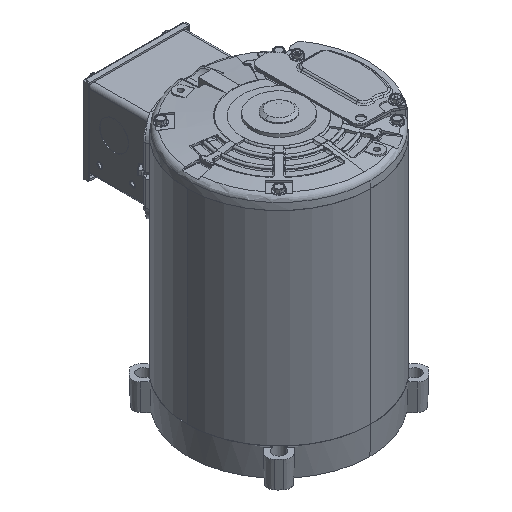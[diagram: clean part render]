
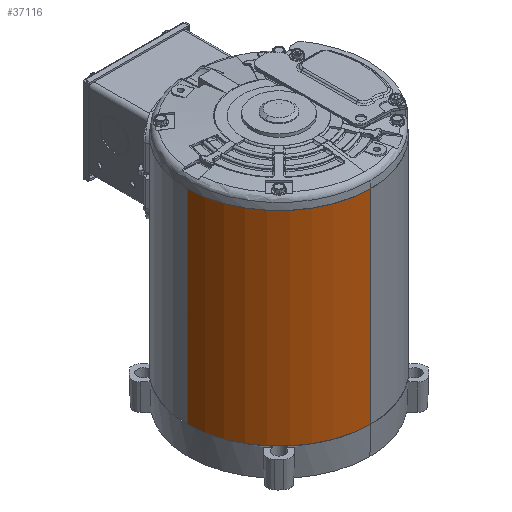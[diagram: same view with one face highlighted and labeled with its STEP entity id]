
A CAD part, isometric view. The second image highlights one B-rep face of the part: STEP entity #37116.
In plain terms, the highlighted cylindrical face has radius 71.369 mm (diameter 142.738 mm), a partial arc.
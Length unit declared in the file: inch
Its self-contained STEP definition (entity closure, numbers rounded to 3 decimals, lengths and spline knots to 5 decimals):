
#2294 = CARTESIAN_POINT ( 'NONE',  ( -2.8098, 0., -6.3125 ) ) ;
#4647 = CARTESIAN_POINT ( 'NONE',  ( 0., 0., -6.3125 ) ) ;
#6828 = VECTOR ( 'NONE', #32880, 39.37008 ) ;
#8421 = VERTEX_POINT ( 'NONE', #82035 ) ;
#8756 = VECTOR ( 'NONE', #19012, 39.37008 ) ;
#12274 = CYLINDRICAL_SURFACE ( 'NONE', #70327, 2.8098 ) ;
#13577 = CIRCLE ( 'NONE', #28721, 2.8098 ) ;
#15607 = EDGE_CURVE ( 'NONE', #103213, #76843, #49140, .T. ) ;
#19012 = DIRECTION ( 'NONE',  ( 0., 0., -1. ) ) ;
#23729 = CARTESIAN_POINT ( 'NONE',  ( 0., 0., 18.46135 ) ) ;
#26103 = VERTEX_POINT ( 'NONE', #2294 ) ;
#28721 = AXIS2_PLACEMENT_3D ( 'NONE', #58793, #66483, #50154 ) ;
#32880 = DIRECTION ( 'NONE',  ( 0., 0., 1. ) ) ;
#34574 = ORIENTED_EDGE ( 'NONE', *, *, #61269, .T. ) ;
#37116 = ADVANCED_FACE ( 'NONE', ( #40904 ), #12274, .T. ) ;
#38650 = DIRECTION ( 'NONE',  ( -1., 0., 0. ) ) ;
#40904 = FACE_OUTER_BOUND ( 'NONE', #78964, .T. ) ;
#43036 = AXIS2_PLACEMENT_3D ( 'NONE', #4647, #76317, #101053 ) ;
#49140 = LINE ( 'NONE', #63819, #6828 ) ;
#49948 = CARTESIAN_POINT ( 'NONE',  ( -0.01022, -2.80978, -0.0625 ) ) ;
#50154 = DIRECTION ( 'NONE',  ( 1., 0., 0. ) ) ;
#58793 = CARTESIAN_POINT ( 'NONE',  ( 0., 0., -0.0625 ) ) ;
#61269 = EDGE_CURVE ( 'NONE', #26103, #103213, #66313, .T. ) ;
#63819 = CARTESIAN_POINT ( 'NONE',  ( -0.01022, -2.80978, 18.46135 ) ) ;
#65892 = EDGE_CURVE ( 'NONE', #76843, #8421, #13577, .T. ) ;
#66313 = CIRCLE ( 'NONE', #43036, 2.8098 ) ;
#66483 = DIRECTION ( 'NONE',  ( 0., 0., -1. ) ) ;
#68179 = CARTESIAN_POINT ( 'NONE',  ( -0.01022, -2.80978, -6.3125 ) ) ;
#70327 = AXIS2_PLACEMENT_3D ( 'NONE', #23729, #78298, #38650 ) ;
#76317 = DIRECTION ( 'NONE',  ( 0., 0., 1. ) ) ;
#76843 = VERTEX_POINT ( 'NONE', #49948 ) ;
#78298 = DIRECTION ( 'NONE',  ( 0., 0., -1. ) ) ;
#78964 = EDGE_LOOP ( 'NONE', ( #93612, #81602, #34574, #96116 ) ) ;
#81602 = ORIENTED_EDGE ( 'NONE', *, *, #94868, .T. ) ;
#82035 = CARTESIAN_POINT ( 'NONE',  ( -2.8098, 0., -0.0625 ) ) ;
#89975 = CARTESIAN_POINT ( 'NONE',  ( -2.8098, 0., 18.46135 ) ) ;
#90907 = LINE ( 'NONE', #89975, #8756 ) ;
#93612 = ORIENTED_EDGE ( 'NONE', *, *, #65892, .T. ) ;
#94868 = EDGE_CURVE ( 'NONE', #8421, #26103, #90907, .T. ) ;
#96116 = ORIENTED_EDGE ( 'NONE', *, *, #15607, .T. ) ;
#101053 = DIRECTION ( 'NONE',  ( 0., 1., 0. ) ) ;
#103213 = VERTEX_POINT ( 'NONE', #68179 ) ;
